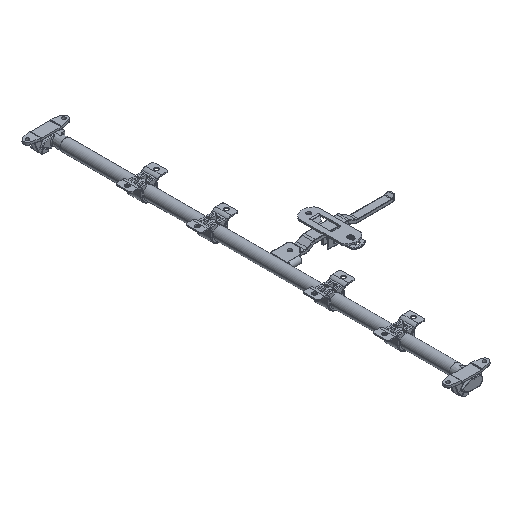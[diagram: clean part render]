
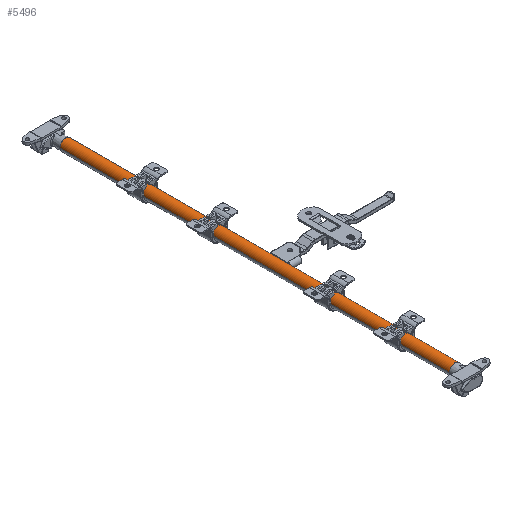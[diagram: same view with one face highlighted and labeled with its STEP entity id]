
A CAD part, isometric view. The second image highlights one B-rep face of the part: STEP entity #5496.
In plain terms, the highlighted cylindrical face has radius 14.5 mm (diameter 29 mm), a partial arc.
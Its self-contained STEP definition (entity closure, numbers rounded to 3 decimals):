
#5123 = EDGE_CURVE ( 'NONE', #5480, #5778, #23033, .T. ) ;
#5139 = VERTEX_POINT ( 'NONE', #23028 ) ;
#5480 = VERTEX_POINT ( 'NONE', #23017 ) ;
#5496 = ADVANCED_FACE ( 'NONE', ( #23088 ), #23084, .T. ) ;
#5721 = ORIENTED_EDGE ( 'NONE', *, *, #5722, .T. ) ;
#5722 = EDGE_CURVE ( 'NONE', #5139, #5480, #23203, .T. ) ;
#5778 = VERTEX_POINT ( 'NONE', #23229 ) ;
#5849 = EDGE_CURVE ( 'NONE', #5778, #6098, #23338, .T. ) ;
#5856 = ORIENTED_EDGE ( 'NONE', *, *, #6079, .F. ) ;
#5857 = ORIENTED_EDGE ( 'NONE', *, *, #5849, .T. ) ;
#5882 = EDGE_LOOP ( 'NONE', ( #5721, #6097, #5857, #5856 ) ) ;
#6079 = EDGE_CURVE ( 'NONE', #5139, #6098, #23524, .T. ) ;
#6097 = ORIENTED_EDGE ( 'NONE', *, *, #5123, .T. ) ;
#6098 = VERTEX_POINT ( 'NONE', #23573 ) ;
#23017 = CARTESIAN_POINT ( 'NONE',  ( 14.5, 0., 500. ) ) ;
#23028 = CARTESIAN_POINT ( 'NONE',  ( -14.5, 0., 500. ) ) ;
#23029 = DIRECTION ( 'NONE',  ( 0., 0., -1. ) ) ;
#23030 = VECTOR ( 'NONE', #23029, 1000. ) ;
#23032 = CARTESIAN_POINT ( 'NONE',  ( 14.5, 0., 500. ) ) ;
#23033 = LINE ( 'NONE', #23032, #23030 ) ;
#23084 = CYLINDRICAL_SURFACE ( 'NONE', #23115, 14.5 ) ;
#23088 = FACE_OUTER_BOUND ( 'NONE', #5882, .T. ) ;
#23115 = AXIS2_PLACEMENT_3D ( 'NONE', #23155, #23154, #23156 ) ;
#23154 = DIRECTION ( 'NONE',  ( 0., 0., -1. ) ) ;
#23155 = CARTESIAN_POINT ( 'NONE',  ( 0., 0., 500. ) ) ;
#23156 = DIRECTION ( 'NONE',  ( -1., 0., 0. ) ) ;
#23203 = CIRCLE ( 'NONE', #23306, 14.5 ) ;
#23229 = CARTESIAN_POINT ( 'NONE',  ( 14.5, 0., -500. ) ) ;
#23295 = DIRECTION ( 'NONE',  ( 0., 0., -1. ) ) ;
#23303 = AXIS2_PLACEMENT_3D ( 'NONE', #23332, #23331, #23438 ) ;
#23306 = AXIS2_PLACEMENT_3D ( 'NONE', #23374, #23295, #23335 ) ;
#23331 = DIRECTION ( 'NONE',  ( 0., 0., 1. ) ) ;
#23332 = CARTESIAN_POINT ( 'NONE',  ( 0., 0., -500. ) ) ;
#23335 = DIRECTION ( 'NONE',  ( -1., 0., 0. ) ) ;
#23338 = CIRCLE ( 'NONE', #23303, 14.5 ) ;
#23374 = CARTESIAN_POINT ( 'NONE',  ( 0., 0., 500. ) ) ;
#23438 = DIRECTION ( 'NONE',  ( -1., 0., 0. ) ) ;
#23496 = DIRECTION ( 'NONE',  ( 0., 0., -1. ) ) ;
#23510 = VECTOR ( 'NONE', #23496, 1000. ) ;
#23511 = CARTESIAN_POINT ( 'NONE',  ( -14.5, 0., 500. ) ) ;
#23524 = LINE ( 'NONE', #23511, #23510 ) ;
#23573 = CARTESIAN_POINT ( 'NONE',  ( -14.5, 0., -500. ) ) ;
